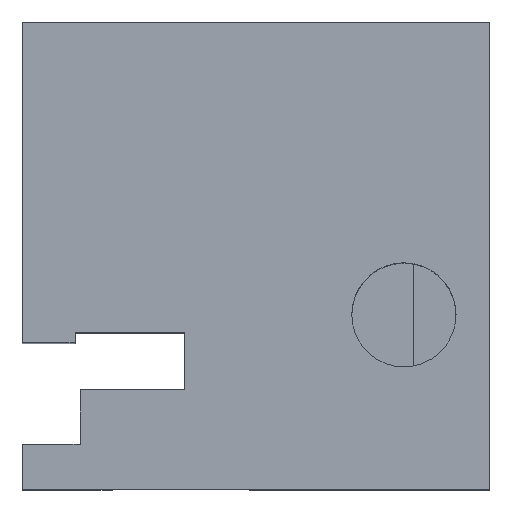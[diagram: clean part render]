
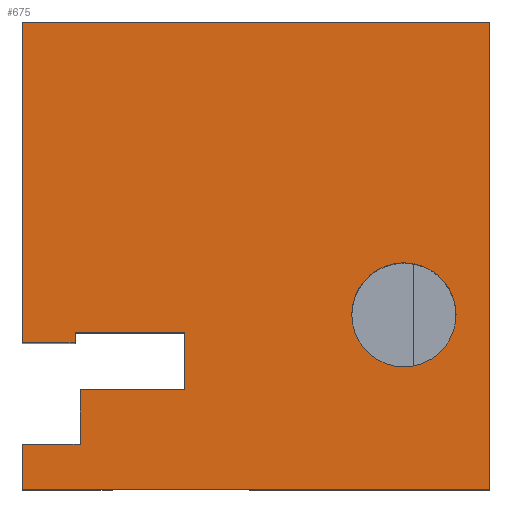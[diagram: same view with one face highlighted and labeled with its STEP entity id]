
A CAD part, top view. The second image highlights one B-rep face of the part: STEP entity #675.
In plain terms, the highlighted planar face has unit normal (0, 0, 1).
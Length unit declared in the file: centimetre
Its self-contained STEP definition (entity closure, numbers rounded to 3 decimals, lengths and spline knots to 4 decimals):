
#13 = EDGE_CURVE ( 'NONE', #876, #686, #773, .T. ) ;
#21 = DIRECTION ( 'NONE',  ( 1., 0., 0. ) ) ;
#25 = VECTOR ( 'NONE', #689, 100. ) ;
#70 = DIRECTION ( 'NONE',  ( 1., 0., 0. ) ) ;
#81 = LINE ( 'NONE', #1867, #887 ) ;
#92 = ORIENTED_EDGE ( 'NONE', *, *, #2062, .F. ) ;
#105 = VERTEX_POINT ( 'NONE', #1549 ) ;
#147 = CARTESIAN_POINT ( 'NONE',  ( 123.4462, 96.3649, 1000. ) ) ;
#150 = FACE_BOUND ( 'NONE', #2085, .T. ) ;
#159 = AXIS2_PLACEMENT_3D ( 'NONE', #1604, #996, #174 ) ;
#174 = DIRECTION ( 'NONE',  ( 1., 0., 0. ) ) ;
#204 = ORIENTED_EDGE ( 'NONE', *, *, #878, .T. ) ;
#218 = DIRECTION ( 'NONE',  ( 1., 0., 0. ) ) ;
#225 = CARTESIAN_POINT ( 'NONE',  ( 123.4462, 96.3649, 1000. ) ) ;
#236 = LINE ( 'NONE', #1706, #1162 ) ;
#247 = ORIENTED_EDGE ( 'NONE', *, *, #367, .T. ) ;
#260 = VECTOR ( 'NONE', #453, 100. ) ;
#269 = LINE ( 'NONE', #383, #1856 ) ;
#291 = LINE ( 'NONE', #302, #505 ) ;
#302 = CARTESIAN_POINT ( 'NONE',  ( 0., 1000., 1000. ) ) ;
#303 = AXIS2_PLACEMENT_3D ( 'NONE', #1655, #840, #21 ) ;
#305 = LINE ( 'NONE', #1126, #260 ) ;
#333 = LINE ( 'NONE', #630, #1468 ) ;
#341 = PLANE ( 'NONE',  #303 ) ;
#367 = EDGE_CURVE ( 'NONE', #847, #771, #1615, .T. ) ;
#383 = CARTESIAN_POINT ( 'NONE',  ( 112.7094, 335.6398, 1000. ) ) ;
#415 = ORIENTED_EDGE ( 'NONE', *, *, #696, .F. ) ;
#424 = DIRECTION ( 'NONE',  ( -1., 0., 0. ) ) ;
#453 = DIRECTION ( 'NONE',  ( 0., 1., 0. ) ) ;
#457 = CARTESIAN_POINT ( 'NONE',  ( 0., 0., 1000. ) ) ;
#477 = CARTESIAN_POINT ( 'NONE',  ( 112.7094, 312.9975, 1000. ) ) ;
#505 = VECTOR ( 'NONE', #424, 100. ) ;
#517 = EDGE_CURVE ( 'NONE', #1276, #1429, #2044, .T. ) ;
#529 = CARTESIAN_POINT ( 'NONE',  ( 0., 96.3649, 1000. ) ) ;
#567 = VERTEX_POINT ( 'NONE', #477 ) ;
#581 = CARTESIAN_POINT ( 'NONE',  ( 0., 1000., 1000. ) ) ;
#594 = DIRECTION ( 'NONE',  ( 0., -1., 0. ) ) ;
#618 = CARTESIAN_POINT ( 'NONE',  ( 0., 1000., 1000. ) ) ;
#630 = CARTESIAN_POINT ( 'NONE',  ( 0., 1000., 1000. ) ) ;
#645 = ORIENTED_EDGE ( 'NONE', *, *, #1605, .F. ) ;
#669 = CARTESIAN_POINT ( 'NONE',  ( 705.0885, 373.1798, 1000. ) ) ;
#674 = VECTOR ( 'NONE', #1502, 100. ) ;
#675 = ADVANCED_FACE ( 'NONE', ( #969, #150 ), #341, .T. ) ;
#681 = LINE ( 'NONE', #1035, #1853 ) ;
#686 = VERTEX_POINT ( 'NONE', #669 ) ;
#689 = DIRECTION ( 'NONE',  ( 1., 0., 0. ) ) ;
#696 = EDGE_CURVE ( 'NONE', #2081, #105, #269, .T. ) ;
#708 = ORIENTED_EDGE ( 'NONE', *, *, #770, .F. ) ;
#720 = CARTESIAN_POINT ( 'NONE',  ( 346.9769, 212.5426, 1000. ) ) ;
#749 = CARTESIAN_POINT ( 'NONE',  ( 0., 0., 1000. ) ) ;
#770 = EDGE_CURVE ( 'NONE', #105, #567, #1848, .T. ) ;
#771 = VERTEX_POINT ( 'NONE', #1383 ) ;
#773 = CIRCLE ( 'NONE', #159, 111.5204 ) ;
#805 = CARTESIAN_POINT ( 'NONE',  ( 1000., 1000., 1000. ) ) ;
#840 = DIRECTION ( 'NONE',  ( 0., 0., 1. ) ) ;
#847 = VERTEX_POINT ( 'NONE', #749 ) ;
#854 = AXIS2_PLACEMENT_3D ( 'NONE', #1859, #1547, #70 ) ;
#876 = VERTEX_POINT ( 'NONE', #2079 ) ;
#878 = EDGE_CURVE ( 'NONE', #771, #1290, #305, .T. ) ;
#887 = VECTOR ( 'NONE', #1538, 100. ) ;
#930 = DIRECTION ( 'NONE',  ( 1., 0., 0. ) ) ;
#969 = FACE_OUTER_BOUND ( 'NONE', #1033, .T. ) ;
#972 = EDGE_CURVE ( 'NONE', #686, #876, #1472, .T. ) ;
#992 = ORIENTED_EDGE ( 'NONE', *, *, #2041, .F. ) ;
#996 = DIRECTION ( 'NONE',  ( 0., 0., 1. ) ) ;
#1027 = EDGE_CURVE ( 'NONE', #567, #1429, #81, .T. ) ;
#1033 = EDGE_LOOP ( 'NONE', ( #708, #415, #92, #645, #992, #1872, #1879, #247, #204, #1940, #1577, #1163 ) ) ;
#1035 = CARTESIAN_POINT ( 'NONE',  ( 346.9769, 212.5426, 1000. ) ) ;
#1050 = DIRECTION ( 'NONE',  ( 0., -1., 0. ) ) ;
#1057 = DIRECTION ( 'NONE',  ( -1., 0., 0. ) ) ;
#1061 = EDGE_CURVE ( 'NONE', #1290, #1276, #291, .T. ) ;
#1106 = CARTESIAN_POINT ( 'NONE',  ( 346.9769, 335.6398, 1000. ) ) ;
#1126 = CARTESIAN_POINT ( 'NONE',  ( 1000., 1000., 1000. ) ) ;
#1162 = VECTOR ( 'NONE', #218, 100. ) ;
#1163 = ORIENTED_EDGE ( 'NONE', *, *, #1027, .F. ) ;
#1188 = CARTESIAN_POINT ( 'NONE',  ( 112.7094, 212.5426, 1000. ) ) ;
#1252 = VERTEX_POINT ( 'NONE', #147 ) ;
#1253 = EDGE_CURVE ( 'NONE', #1624, #847, #333, .T. ) ;
#1276 = VERTEX_POINT ( 'NONE', #618 ) ;
#1290 = VERTEX_POINT ( 'NONE', #805 ) ;
#1297 = VECTOR ( 'NONE', #930, 100. ) ;
#1339 = DIRECTION ( 'NONE',  ( 0., 1., 0. ) ) ;
#1359 = LINE ( 'NONE', #1188, #25 ) ;
#1360 = VECTOR ( 'NONE', #594, 100. ) ;
#1383 = CARTESIAN_POINT ( 'NONE',  ( 1000., 0., 1000. ) ) ;
#1429 = VERTEX_POINT ( 'NONE', #1489 ) ;
#1459 = DIRECTION ( 'NONE',  ( 0., -1., 0. ) ) ;
#1468 = VECTOR ( 'NONE', #1459, 100. ) ;
#1472 = CIRCLE ( 'NONE', #854, 111.5204 ) ;
#1489 = CARTESIAN_POINT ( 'NONE',  ( 0., 312.9975, 1000. ) ) ;
#1502 = DIRECTION ( 'NONE',  ( 0., 1., 0. ) ) ;
#1504 = VECTOR ( 'NONE', #1050, 100. ) ;
#1529 = VERTEX_POINT ( 'NONE', #1996 ) ;
#1538 = DIRECTION ( 'NONE',  ( -1., 0., 0. ) ) ;
#1547 = DIRECTION ( 'NONE',  ( 0., 0., 1. ) ) ;
#1549 = CARTESIAN_POINT ( 'NONE',  ( 112.7094, 335.6398, 1000. ) ) ;
#1556 = CARTESIAN_POINT ( 'NONE',  ( 112.7094, 212.5426, 1000. ) ) ;
#1564 = ORIENTED_EDGE ( 'NONE', *, *, #13, .F. ) ;
#1573 = VERTEX_POINT ( 'NONE', #720 ) ;
#1577 = ORIENTED_EDGE ( 'NONE', *, *, #517, .T. ) ;
#1599 = EDGE_CURVE ( 'NONE', #1624, #1252, #236, .T. ) ;
#1604 = CARTESIAN_POINT ( 'NONE',  ( 816.6089, 373.1798, 1000. ) ) ;
#1605 = EDGE_CURVE ( 'NONE', #1529, #1573, #1359, .T. ) ;
#1615 = LINE ( 'NONE', #457, #1297 ) ;
#1624 = VERTEX_POINT ( 'NONE', #529 ) ;
#1655 = CARTESIAN_POINT ( 'NONE',  ( 0., 0., 1000. ) ) ;
#1670 = LINE ( 'NONE', #225, #674 ) ;
#1706 = CARTESIAN_POINT ( 'NONE',  ( 0., 96.3649, 1000. ) ) ;
#1848 = LINE ( 'NONE', #1556, #1504 ) ;
#1853 = VECTOR ( 'NONE', #1339, 100. ) ;
#1856 = VECTOR ( 'NONE', #1057, 100. ) ;
#1859 = CARTESIAN_POINT ( 'NONE',  ( 816.6089, 373.1798, 1000. ) ) ;
#1867 = CARTESIAN_POINT ( 'NONE',  ( 0., 312.9975, 1000. ) ) ;
#1872 = ORIENTED_EDGE ( 'NONE', *, *, #1599, .F. ) ;
#1879 = ORIENTED_EDGE ( 'NONE', *, *, #1253, .T. ) ;
#1940 = ORIENTED_EDGE ( 'NONE', *, *, #1061, .T. ) ;
#1943 = ORIENTED_EDGE ( 'NONE', *, *, #972, .F. ) ;
#1996 = CARTESIAN_POINT ( 'NONE',  ( 123.4462, 212.5426, 1000. ) ) ;
#2041 = EDGE_CURVE ( 'NONE', #1252, #1529, #1670, .T. ) ;
#2044 = LINE ( 'NONE', #581, #1360 ) ;
#2062 = EDGE_CURVE ( 'NONE', #1573, #2081, #681, .T. ) ;
#2079 = CARTESIAN_POINT ( 'NONE',  ( 928.1293, 373.1798, 1000. ) ) ;
#2081 = VERTEX_POINT ( 'NONE', #1106 ) ;
#2085 = EDGE_LOOP ( 'NONE', ( #1564, #1943 ) ) ;
